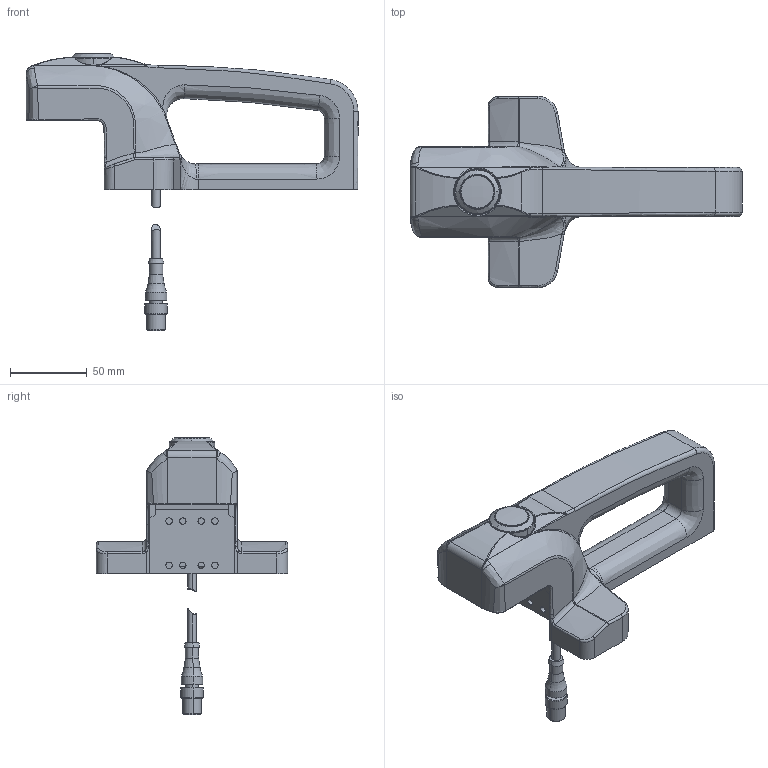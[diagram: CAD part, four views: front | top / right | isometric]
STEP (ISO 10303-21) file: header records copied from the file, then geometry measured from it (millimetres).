
FILE_DESCRIPTION (( 'STEP AP203' ), '1' );
FILE_NAME ('ZF_STEP_AN Gxx001A_PMx.STEP', '2024-11-06T11:27:57', ( '' ), ( '' ), 'SwSTEP 2.0', 'SolidWorks 2023', '' );
FILE_SCHEMA (( 'CONFIG_CONTROL_DESIGN' ));
Length unit declared in the file: millimetre
Products named in the file (5): Connettore con cavo_AN_PMxx; ZF_STEP_AN Gxx001A; ZF_STEP_AN Gxx001A_PMx; ZF_STEP_AN Gxx00x_plastiche; ZF_STEP_VN_NG-AC26001_A17_bianco
Assembly tree (4 placements, depth 3):
  ZF_STEP_AN Gxx001A_PMx
    ZF_STEP_AN Gxx001A
      ZF_STEP_AN Gxx00x_plastiche
      ZF_STEP_VN_NG-AC26001_A17_bianco
    Connettore con cavo_AN_PMxx
Bounding box: 217 x 125 x 181.54 mm (x, y, z)
Volume: 409231.4 mm3; surface area: 80466.3 mm2
Topology: 5 solids, 5 shells, 414 faces, 1020 edges, 644 vertices
Faces by surface type: bspline 149, cylinder 123, plane 120, cone 16, torus 6
Entity records: 22521 total; most frequent: CARTESIAN_POINT 13509, ORIENTED_EDGE 2028, DIRECTION 1406, EDGE_CURVE 1014, VERTEX_POINT 644, AXIS2_PLACEMENT_3D 546, EDGE_LOOP 454, FACE_OUTER_BOUND 414
